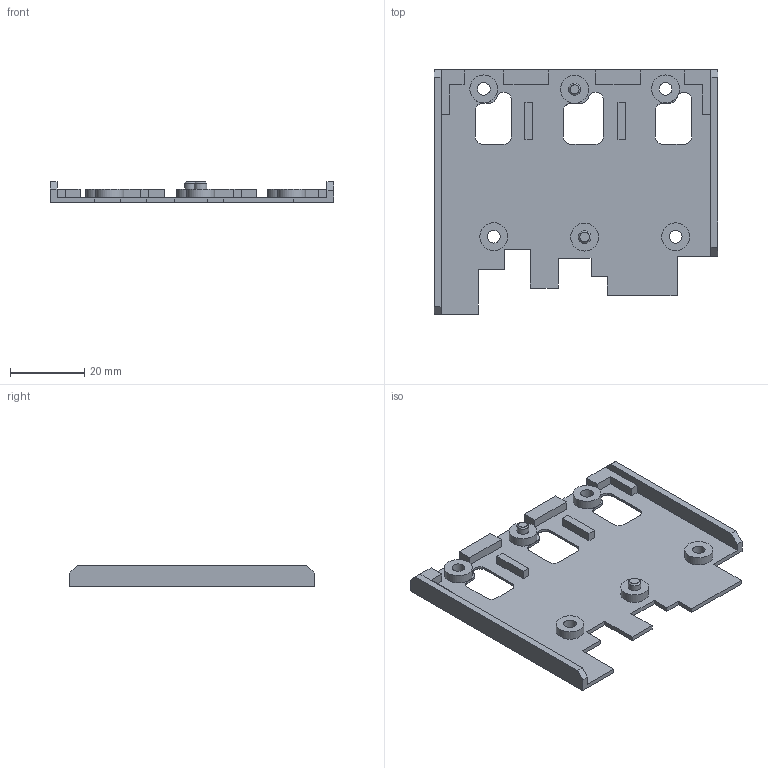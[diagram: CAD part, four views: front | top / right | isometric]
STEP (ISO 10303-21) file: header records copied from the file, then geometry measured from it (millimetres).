
FILE_DESCRIPTION(/* description */ (''),/* implementation_level */ '2;1');
FILE_NAME(/* name */ 'LFOC_Cover_Fix2 v1.step',/* time_stamp */ '2023-06-11T18:06:42+03:00',/* author */ (''),/* organization */ (''),/* preprocessor_version */ 'ST-DEVELOPER v19.2',/* originating_system */ 'Autodesk Translation Framework v12.4.0.73',/* authorisation */ '');
FILE_SCHEMA (('AUTOMOTIVE_DESIGN { 1 0 10303 214 3 1 1 }'));
Length unit declared in the file: millimetre
Products named in the file (2): LFOC_Cover_Fix2; LFOC_Cover
Assembly tree (1 placements, depth 2):
  LFOC_Cover_Fix2
    LFOC_Cover
Bounding box: 76.13 x 65.64 x 5.6 mm (x, y, z)
Volume: 6683.3 mm3; surface area: 10195.6 mm2
Topology: 1 solids, 1 shells, 133 faces, 339 edges, 217 vertices
Faces by surface type: plane 89, cylinder 27, cone 17
Full cylindrical faces by diameter (mm): 3.2 x1, 3.4 x5, 7.5 x6
Entity records: 4062 total; most frequent: CARTESIAN_POINT 692, DIRECTION 688, ORIENTED_EDGE 678, EDGE_CURVE 339, LINE 262, VECTOR 262, VERTEX_POINT 217, AXIS2_PLACEMENT_3D 213
